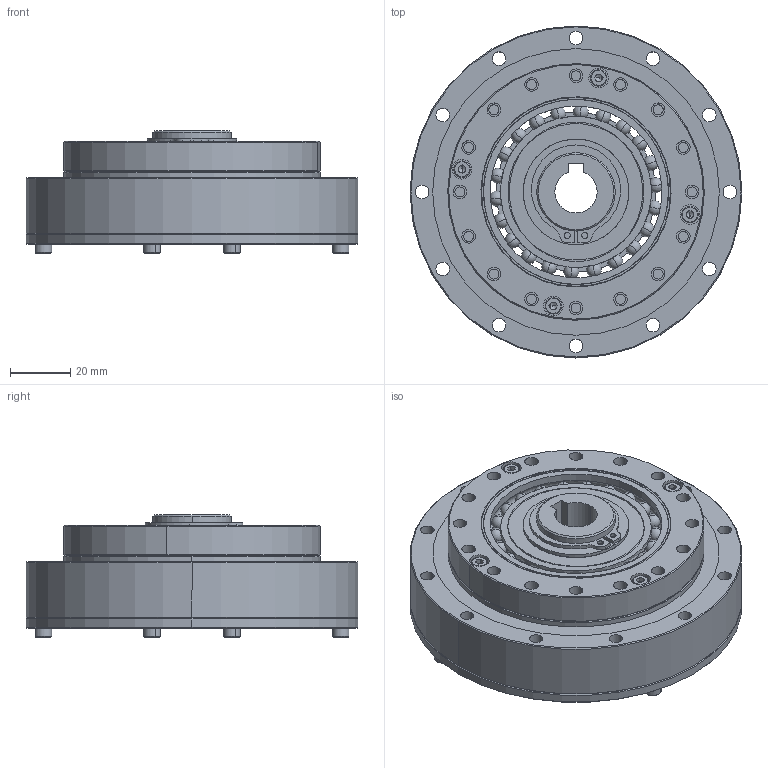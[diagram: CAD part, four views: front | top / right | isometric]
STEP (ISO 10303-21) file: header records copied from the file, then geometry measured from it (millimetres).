
FILE_DESCRIPTION (( 'STEP AP203' ), '1' );
FILE_NAME ('BHS-25-XXX-U-¢ò.STEP', '2019-01-15T03:57:51', ( 'User' ), ( 'China' ), 'SwSTEP 2.0', 'SolidWorks 2015', '' );
FILE_SCHEMA (( 'CONFIG_CONTROL_DESIGN' ));
Length unit declared in the file: millimetre
Products named in the file (1): BHS-25-XXX-U-ｊ
Bounding box: 110 x 110 x 40.5 mm (x, y, z)
Surface area: 58996.2 mm2 (no closed solid volume)
Topology: 0 solids, 26 shells, 396 faces, 1331 edges, 882 vertices
Faces by surface type: cylinder 158, plane 94, cone 52, torus 46, sphere 44, bspline 2
Entity records: 14408 total; most frequent: CARTESIAN_POINT 3508, DIRECTION 2404, ORIENTED_EDGE 1982, EDGE_CURVE 1205, AXIS2_PLACEMENT_3D 984, VERTEX_POINT 816, CIRCLE 589, EDGE_LOOP 490
